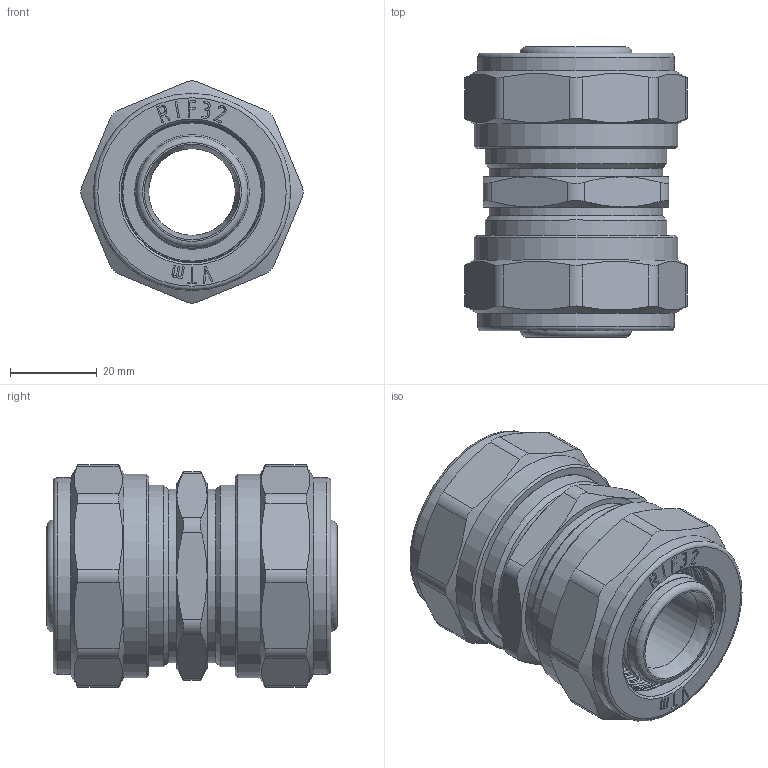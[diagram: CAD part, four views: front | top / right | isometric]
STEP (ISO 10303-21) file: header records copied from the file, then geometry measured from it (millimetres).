
FILE_DESCRIPTION(('STEP AP203'), '1');
FILE_NAME('VTm.303.N.003232', '', ('UNSPECIFIED'), ('UNSPECIFIED'), 'C3D Converter', 'C3D Toolkit', '');
FILE_SCHEMA(('CONFIG_CONTROL_DESIGN'));
Length unit declared in the file: millimetre
Products named in the file (1): ВР.302634.077.000 СБ
Bounding box: 51.3 x 67 x 51.3 mm (x, y, z)
Volume: 68956.5 mm3; surface area: 35514.7 mm2
Topology: 1 solids, 1 shells, 624 faces, 1686 edges, 1108 vertices
Faces by surface type: extrusion 258, plane 192, cylinder 79, torus 58, cone 37
Full cylindrical faces by diameter (mm): 20 x1, 22.8 x8, 25.8 x10, 26 x2, 32.1 x2, 32.2 x2, 32.7 x2, 40 x2, 40.376 x2, 42 x2, 45.5 x2, 47 x2
Entity records: 23320 total; most frequent: CARTESIAN_POINT 9319, ORIENTED_EDGE 3186, DIRECTION 2042, EDGE_CURVE 1593, VERTEX_POINT 1104, B_SPLINE_CURVE_WITH_KNOTS 953, VECTOR 916, EDGE_LOOP 751
